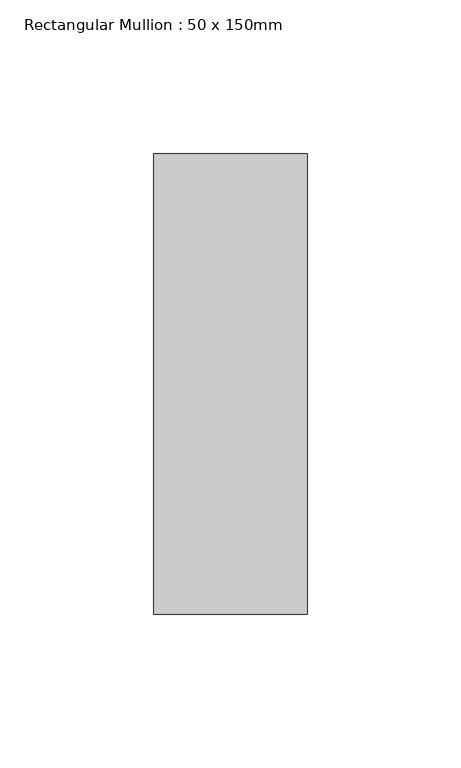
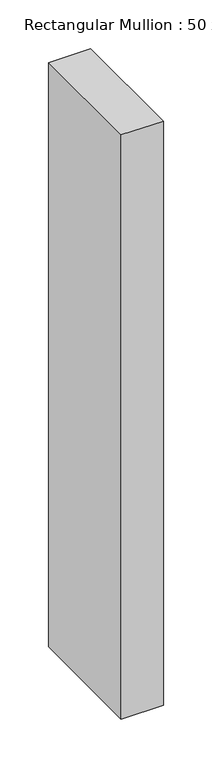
"""IFC4 building model written with IfcOpenShell, lengths in millimetres: member geometry, Rectangular Mullion : 50 x 150mm."""

from ifc_helpers import new_model, si_unit, frame, origin, place, context, project, spatial, polyline, outline, extrude, source, transform, mapped, element, save


def rectangular_mullion_50_x_150mm_20b6891b(model_context):
    return source(origin(), model_context, "Body", "SweptSolid", [
        extrude(outline(polyline([(25.0, 75.0), (25.0, -75.0), (-25.0, -75.0), (-25.0, 75.0), (25.0, 75.0)])), frame((0.0, 0.0, -734.1666666), z_axis=(0.0, 0.0, 1.0), x_axis=(1.0, 0.0, 0.0)), (0.0, 0.0, 1.0), 734.1666666),
    ])


if __name__ == "__main__":
    model = new_model("IFC4")
    model_context = context("Model", 3, world=origin())
    ifc_project = project(units=[si_unit("LENGTHUNIT", "METRE", prefix="MILLI")], contexts=[model_context])
    site = spatial("IfcSite", under=ifc_project)
    building = spatial("IfcBuilding", under=site)
    placement = place(None, origin())
    rectangular_mullion_50_x_150mm_shape = rectangular_mullion_50_x_150mm_20b6891b(model_context)
    element("IfcMember", 1, ObjectType="Rectangular Mullion : 50 x 150mm", at=placement, inside=building, context=model_context, shape_type="MappedRepresentation", body=[
        mapped(rectangular_mullion_50_x_150mm_shape, transform((0.0, 0.0, 0.0), x_axis=(1.0, 0.0, 0.0), y_axis=(0.0, 1.0, 0.0), z_axis=(0.0, 0.0, 1.0))),
    ])
    save(model, "model.ifc")
